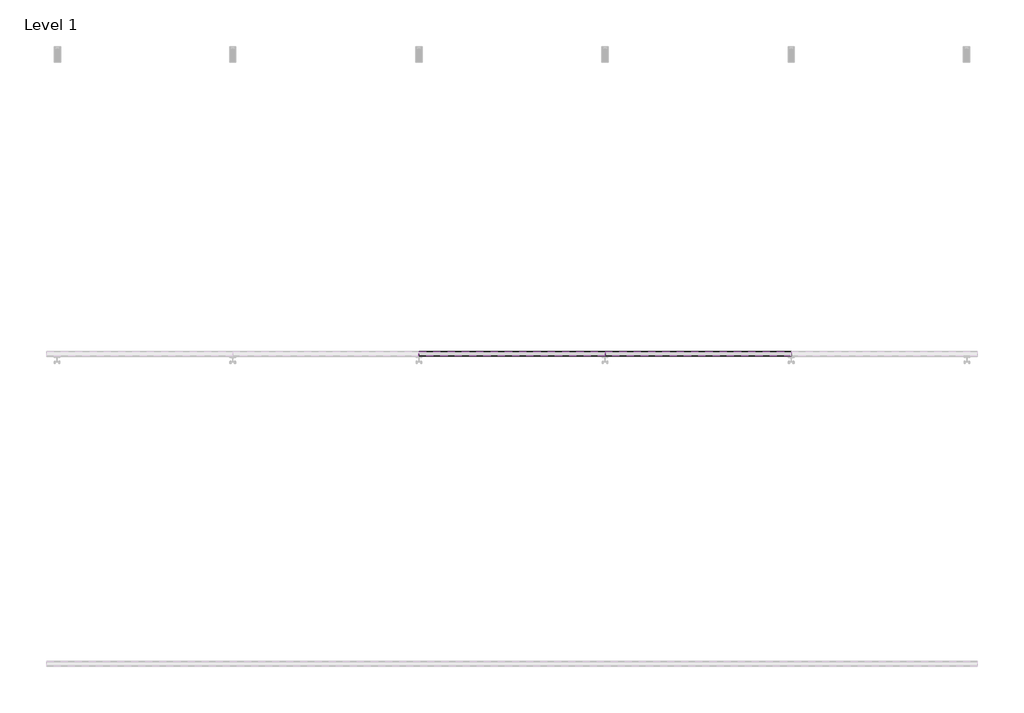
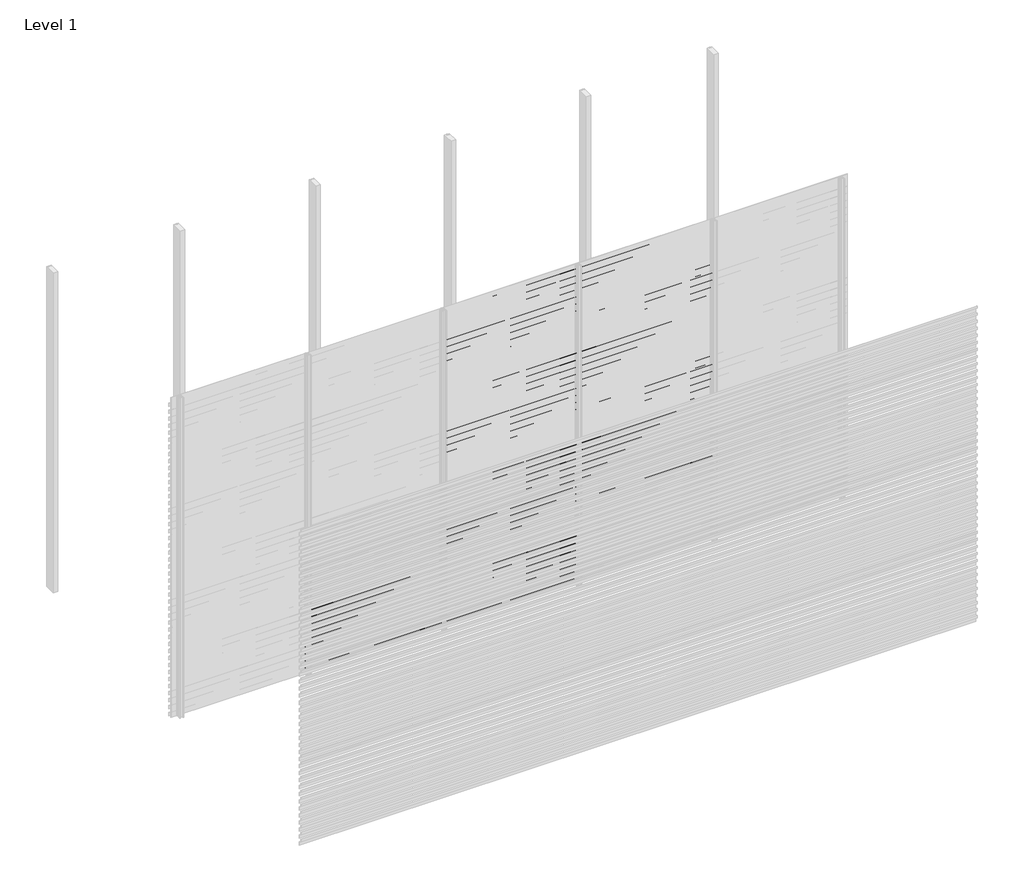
# One storey, part 11 of 33: 88 proxies.
"""IFC4 building model written with IfcOpenShell, lengths in millimetres."""

from ifc_helpers import new_model, si_unit, frame, origin, place, context, project, spatial, polyline, outline, extrude, element, save

model = new_model("IFC4")

# Units and contexts
model_context = context("Model", 3, world=origin())
ifc_project = project(units=[si_unit("LENGTHUNIT", "METRE", prefix="MILLI")], contexts=[model_context])

# Site, building, storey
site = spatial("IfcSite", under=ifc_project)
building = spatial("IfcBuilding", under=site)
storey = spatial("IfcBuildingStorey", under=building, Name="Level 1", Elevation=0.0)

# Proxies
placement = place(None, origin())
element("IfcBuildingElementProxy", 1, Name="Wall Sweeps", at=placement, inside=storey, context=model_context, shape_type="SweptSolid", body=[
    extrude(outline(polyline([(-41967.0, 554.0), (-41967.0, 521.0), (-41968.25, 521.7216933), (-41968.25, 553.2872415), (-41998.0, 574.0588647), (-41998.0, 594.0), (-41996.75, 594.0), (-41996.75, 574.7716232), (-41967.0, 554.0)])), frame((1200.0, 0.0, 0.0), z_axis=(1.0, 0.0, 0.0), x_axis=(0.0, 1.0, 0.0)), (0.0, 0.0, 1.0), 1200.0),
])
element("IfcBuildingElementProxy", 2, Name="Wall Sweeps", at=placement, inside=storey, context=model_context, shape_type="SweptSolid", body=[
    extrude(outline(polyline([(-41967.0, 488.0), (-41967.0, 455.0), (-41968.25, 455.7216933), (-41968.25, 487.2872415), (-41998.0, 508.0588647), (-41998.0, 528.0), (-41996.75, 528.0), (-41996.75, 508.7716232), (-41967.0, 488.0)])), frame((1200.0, 0.0, 0.0), z_axis=(1.0, 0.0, 0.0), x_axis=(0.0, 1.0, 0.0)), (0.0, 0.0, 1.0), 1200.0),
])
element("IfcBuildingElementProxy", 3, Name="Wall Sweeps", at=placement, inside=storey, context=model_context, shape_type="SweptSolid", body=[
    extrude(outline(polyline([(-41967.0, 422.0), (-41967.0, 389.0), (-41968.25, 389.7216933), (-41968.25, 421.2872415), (-41998.0, 442.0588647), (-41998.0, 462.0), (-41996.75, 462.0), (-41996.75, 442.7716232), (-41967.0, 422.0)])), frame((1200.0, 0.0, 0.0), z_axis=(1.0, 0.0, 0.0), x_axis=(0.0, 1.0, 0.0)), (0.0, 0.0, 1.0), 1200.0),
])
element("IfcBuildingElementProxy", 4, Name="Wall Sweeps", at=placement, inside=storey, context=model_context, shape_type="SweptSolid", body=[
    extrude(outline(polyline([(-41967.0, 356.0), (-41967.0, 323.0), (-41968.25, 323.7216933), (-41968.25, 355.2872415), (-41998.0, 376.0588647), (-41998.0, 396.0), (-41996.75, 396.0), (-41996.75, 376.7716232), (-41967.0, 356.0)])), frame((1200.0, 0.0, 0.0), z_axis=(1.0, 0.0, 0.0), x_axis=(0.0, 1.0, 0.0)), (0.0, 0.0, 1.0), 1200.0),
])
element("IfcBuildingElementProxy", 5, Name="Wall Sweeps", at=placement, inside=storey, context=model_context, shape_type="SweptSolid", body=[
    extrude(outline(polyline([(-41967.0, 290.0), (-41967.0, 257.0), (-41968.25, 257.7216933), (-41968.25, 289.2872415), (-41998.0, 310.0588647), (-41998.0, 330.0), (-41996.75, 330.0), (-41996.75, 310.7716232), (-41967.0, 290.0)])), frame((1200.0, 0.0, 0.0), z_axis=(1.0, 0.0, 0.0), x_axis=(0.0, 1.0, 0.0)), (0.0, 0.0, 1.0), 1200.0),
])
element("IfcBuildingElementProxy", 6, Name="Wall Sweeps", at=placement, inside=storey, context=model_context, shape_type="SweptSolid", body=[
    extrude(outline(polyline([(-41967.0, 224.0), (-41967.0, 191.0), (-41968.25, 191.7216933), (-41968.25, 223.2872415), (-41998.0, 244.0588647), (-41998.0, 264.0), (-41996.75, 264.0), (-41996.75, 244.7716232), (-41967.0, 224.0)])), frame((1200.0, 0.0, 0.0), z_axis=(1.0, 0.0, 0.0), x_axis=(0.0, 1.0, 0.0)), (0.0, 0.0, 1.0), 1200.0),
])
element("IfcBuildingElementProxy", 7, Name="Wall Sweeps", at=placement, inside=storey, context=model_context, shape_type="SweptSolid", body=[
    extrude(outline(polyline([(-41967.0, 158.0), (-41967.0, 125.0), (-41968.25, 125.7216933), (-41968.25, 157.2872415), (-41998.0, 178.0588647), (-41998.0, 198.0), (-41996.75, 198.0), (-41996.75, 178.7716232), (-41967.0, 158.0)])), frame((1200.0, 0.0, 0.0), z_axis=(1.0, 0.0, 0.0), x_axis=(0.0, 1.0, 0.0)), (0.0, 0.0, 1.0), 1200.0),
])
element("IfcBuildingElementProxy", 8, Name="Wall Sweeps", at=placement, inside=storey, context=model_context, shape_type="SweptSolid", body=[
    extrude(outline(polyline([(-41967.0, 92.0), (-41967.0, 59.0), (-41968.25, 59.7216933), (-41968.25, 91.2872415), (-41998.0, 112.0588647), (-41998.0, 132.0), (-41996.75, 132.0), (-41996.75, 112.7716232), (-41967.0, 92.0)])), frame((1200.0, 0.0, 0.0), z_axis=(1.0, 0.0, 0.0), x_axis=(0.0, 1.0, 0.0)), (0.0, 0.0, 1.0), 1200.0),
])
element("IfcBuildingElementProxy", 9, Name="Wall Sweeps", at=placement, inside=storey, context=model_context, shape_type="SweptSolid", body=[
    extrude(outline(polyline([(-41967.0, 26.0), (-41967.0, -7.0), (-41968.25, -6.2783067), (-41968.25, 25.2872415), (-41998.0, 46.0588647), (-41998.0, 66.0), (-41996.75, 66.0), (-41996.75, 46.7716232), (-41967.0, 26.0)])), frame((1200.0, 0.0, 0.0), z_axis=(1.0, 0.0, 0.0), x_axis=(0.0, 1.0, 0.0)), (0.0, 0.0, 1.0), 1200.0),
])
element("IfcBuildingElementProxy", 10, Name="Wall Sweeps", at=placement, inside=storey, context=model_context, shape_type="SweptSolid", body=[
    extrude(outline(polyline([(-41967.0, 2930.0), (-41967.0, 2897.0), (-41968.25, 2897.7216933), (-41968.25, 2929.2872415), (-41998.0, 2950.0588647), (-41998.0, 2970.0), (-41996.75, 2970.0), (-41996.75, 2950.7716232), (-41967.0, 2930.0)])), frame((2400.0, 0.0, 0.0), z_axis=(1.0, 0.0, 0.0), x_axis=(0.0, 1.0, 0.0)), (0.0, 0.0, 1.0), 1200.0),
])
element("IfcBuildingElementProxy", 11, Name="Wall Sweeps", at=placement, inside=storey, context=model_context, shape_type="SweptSolid", body=[
    extrude(outline(polyline([(-41967.0, 2864.0), (-41967.0, 2831.0), (-41968.25, 2831.7216933), (-41968.25, 2863.2872415), (-41998.0, 2884.0588647), (-41998.0, 2904.0), (-41996.75, 2904.0), (-41996.75, 2884.7716232), (-41967.0, 2864.0)])), frame((2400.0, 0.0, 0.0), z_axis=(1.0, 0.0, 0.0), x_axis=(0.0, 1.0, 0.0)), (0.0, 0.0, 1.0), 1200.0),
])
element("IfcBuildingElementProxy", 12, Name="Wall Sweeps", at=placement, inside=storey, context=model_context, shape_type="SweptSolid", body=[
    extrude(outline(polyline([(-41967.0, 2798.0), (-41967.0, 2765.0), (-41968.25, 2765.7216933), (-41968.25, 2797.2872415), (-41998.0, 2818.0588647), (-41998.0, 2838.0), (-41996.75, 2838.0), (-41996.75, 2818.7716232), (-41967.0, 2798.0)])), frame((2400.0, 0.0, 0.0), z_axis=(1.0, 0.0, 0.0), x_axis=(0.0, 1.0, 0.0)), (0.0, 0.0, 1.0), 1200.0),
])
element("IfcBuildingElementProxy", 13, Name="Wall Sweeps", at=placement, inside=storey, context=model_context, shape_type="SweptSolid", body=[
    extrude(outline(polyline([(-41967.0, 2732.0), (-41967.0, 2699.0), (-41968.25, 2699.7216933), (-41968.25, 2731.2872415), (-41998.0, 2752.0588647), (-41998.0, 2772.0), (-41996.75, 2772.0), (-41996.75, 2752.7716232), (-41967.0, 2732.0)])), frame((2400.0, 0.0, 0.0), z_axis=(1.0, 0.0, 0.0), x_axis=(0.0, 1.0, 0.0)), (0.0, 0.0, 1.0), 1200.0),
])
element("IfcBuildingElementProxy", 14, Name="Wall Sweeps", at=placement, inside=storey, context=model_context, shape_type="SweptSolid", body=[
    extrude(outline(polyline([(-41967.0, 2666.0), (-41967.0, 2633.0), (-41968.25, 2633.7216933), (-41968.25, 2665.2872415), (-41998.0, 2686.0588647), (-41998.0, 2706.0), (-41996.75, 2706.0), (-41996.75, 2686.7716232), (-41967.0, 2666.0)])), frame((2400.0, 0.0, 0.0), z_axis=(1.0, 0.0, 0.0), x_axis=(0.0, 1.0, 0.0)), (0.0, 0.0, 1.0), 1200.0),
])
element("IfcBuildingElementProxy", 15, Name="Wall Sweeps", at=placement, inside=storey, context=model_context, shape_type="SweptSolid", body=[
    extrude(outline(polyline([(-41967.0, 2600.0), (-41967.0, 2567.0), (-41968.25, 2567.7216933), (-41968.25, 2599.2872415), (-41998.0, 2620.0588647), (-41998.0, 2640.0), (-41996.75, 2640.0), (-41996.75, 2620.7716232), (-41967.0, 2600.0)])), frame((2400.0, 0.0, 0.0), z_axis=(1.0, 0.0, 0.0), x_axis=(0.0, 1.0, 0.0)), (0.0, 0.0, 1.0), 1200.0),
])
element("IfcBuildingElementProxy", 16, Name="Wall Sweeps", at=placement, inside=storey, context=model_context, shape_type="SweptSolid", body=[
    extrude(outline(polyline([(-41967.0, 2534.0), (-41967.0, 2501.0), (-41968.25, 2501.7216933), (-41968.25, 2533.2872415), (-41998.0, 2554.0588647), (-41998.0, 2574.0), (-41996.75, 2574.0), (-41996.75, 2554.7716232), (-41967.0, 2534.0)])), frame((2400.0, 0.0, 0.0), z_axis=(1.0, 0.0, 0.0), x_axis=(0.0, 1.0, 0.0)), (0.0, 0.0, 1.0), 1200.0),
])
element("IfcBuildingElementProxy", 17, Name="Wall Sweeps", at=placement, inside=storey, context=model_context, shape_type="SweptSolid", body=[
    extrude(outline(polyline([(-41967.0, 2468.0), (-41967.0, 2435.0), (-41968.25, 2435.7216933), (-41968.25, 2467.2872415), (-41998.0, 2488.0588647), (-41998.0, 2508.0), (-41996.75, 2508.0), (-41996.75, 2488.7716232), (-41967.0, 2468.0)])), frame((2400.0, 0.0, 0.0), z_axis=(1.0, 0.0, 0.0), x_axis=(0.0, 1.0, 0.0)), (0.0, 0.0, 1.0), 1200.0),
])
element("IfcBuildingElementProxy", 18, Name="Wall Sweeps", at=placement, inside=storey, context=model_context, shape_type="SweptSolid", body=[
    extrude(outline(polyline([(-41967.0, 2402.0), (-41967.0, 2369.0), (-41968.25, 2369.7216933), (-41968.25, 2401.2872415), (-41998.0, 2422.0588647), (-41998.0, 2442.0), (-41996.75, 2442.0), (-41996.75, 2422.7716232), (-41967.0, 2402.0)])), frame((2400.0, 0.0, 0.0), z_axis=(1.0, 0.0, 0.0), x_axis=(0.0, 1.0, 0.0)), (0.0, 0.0, 1.0), 1200.0),
])
element("IfcBuildingElementProxy", 19, Name="Wall Sweeps", at=placement, inside=storey, context=model_context, shape_type="SweptSolid", body=[
    extrude(outline(polyline([(-41967.0, 2336.0), (-41967.0, 2303.0), (-41968.25, 2303.7216933), (-41968.25, 2335.2872415), (-41998.0, 2356.0588647), (-41998.0, 2376.0), (-41996.75, 2376.0), (-41996.75, 2356.7716232), (-41967.0, 2336.0)])), frame((2400.0, 0.0, 0.0), z_axis=(1.0, 0.0, 0.0), x_axis=(0.0, 1.0, 0.0)), (0.0, 0.0, 1.0), 1200.0),
])
element("IfcBuildingElementProxy", 20, Name="Wall Sweeps", at=placement, inside=storey, context=model_context, shape_type="SweptSolid", body=[
    extrude(outline(polyline([(-41967.0, 2270.0), (-41967.0, 2237.0), (-41968.25, 2237.7216933), (-41968.25, 2269.2872415), (-41998.0, 2290.0588647), (-41998.0, 2310.0), (-41996.75, 2310.0), (-41996.75, 2290.7716232), (-41967.0, 2270.0)])), frame((2400.0, 0.0, 0.0), z_axis=(1.0, 0.0, 0.0), x_axis=(0.0, 1.0, 0.0)), (0.0, 0.0, 1.0), 1200.0),
])
element("IfcBuildingElementProxy", 21, Name="Wall Sweeps", at=placement, inside=storey, context=model_context, shape_type="SweptSolid", body=[
    extrude(outline(polyline([(-41967.0, 2204.0), (-41967.0, 2171.0), (-41968.25, 2171.7216933), (-41968.25, 2203.2872415), (-41998.0, 2224.0588647), (-41998.0, 2244.0), (-41996.75, 2244.0), (-41996.75, 2224.7716232), (-41967.0, 2204.0)])), frame((2400.0, 0.0, 0.0), z_axis=(1.0, 0.0, 0.0), x_axis=(0.0, 1.0, 0.0)), (0.0, 0.0, 1.0), 1200.0),
])
element("IfcBuildingElementProxy", 22, Name="Wall Sweeps", at=placement, inside=storey, context=model_context, shape_type="SweptSolid", body=[
    extrude(outline(polyline([(-41967.0, 2138.0), (-41967.0, 2105.0), (-41968.25, 2105.7216933), (-41968.25, 2137.2872415), (-41998.0, 2158.0588647), (-41998.0, 2178.0), (-41996.75, 2178.0), (-41996.75, 2158.7716232), (-41967.0, 2138.0)])), frame((2400.0, 0.0, 0.0), z_axis=(1.0, 0.0, 0.0), x_axis=(0.0, 1.0, 0.0)), (0.0, 0.0, 1.0), 1200.0),
])
element("IfcBuildingElementProxy", 23, Name="Wall Sweeps", at=placement, inside=storey, context=model_context, shape_type="SweptSolid", body=[
    extrude(outline(polyline([(-41967.0, 2072.0), (-41967.0, 2039.0), (-41968.25, 2039.7216933), (-41968.25, 2071.2872415), (-41998.0, 2092.0588647), (-41998.0, 2112.0), (-41996.75, 2112.0), (-41996.75, 2092.7716232), (-41967.0, 2072.0)])), frame((2400.0, 0.0, 0.0), z_axis=(1.0, 0.0, 0.0), x_axis=(0.0, 1.0, 0.0)), (0.0, 0.0, 1.0), 1200.0),
])
element("IfcBuildingElementProxy", 24, Name="Wall Sweeps", at=placement, inside=storey, context=model_context, shape_type="SweptSolid", body=[
    extrude(outline(polyline([(-41967.0, 2006.0), (-41967.0, 1973.0), (-41968.25, 1973.7216933), (-41968.25, 2005.2872415), (-41998.0, 2026.0588647), (-41998.0, 2046.0), (-41996.75, 2046.0), (-41996.75, 2026.7716232), (-41967.0, 2006.0)])), frame((2400.0, 0.0, 0.0), z_axis=(1.0, 0.0, 0.0), x_axis=(0.0, 1.0, 0.0)), (0.0, 0.0, 1.0), 1200.0),
])
element("IfcBuildingElementProxy", 25, Name="Wall Sweeps", at=placement, inside=storey, context=model_context, shape_type="SweptSolid", body=[
    extrude(outline(polyline([(-41967.0, 1940.0), (-41967.0, 1907.0), (-41968.25, 1907.7216933), (-41968.25, 1939.2872415), (-41998.0, 1960.0588647), (-41998.0, 1980.0), (-41996.75, 1980.0), (-41996.75, 1960.7716232), (-41967.0, 1940.0)])), frame((2400.0, 0.0, 0.0), z_axis=(1.0, 0.0, 0.0), x_axis=(0.0, 1.0, 0.0)), (0.0, 0.0, 1.0), 1200.0),
])
element("IfcBuildingElementProxy", 26, Name="Wall Sweeps", at=placement, inside=storey, context=model_context, shape_type="SweptSolid", body=[
    extrude(outline(polyline([(-41967.0, 1874.0), (-41967.0, 1841.0), (-41968.25, 1841.7216933), (-41968.25, 1873.2872415), (-41998.0, 1894.0588647), (-41998.0, 1914.0), (-41996.75, 1914.0), (-41996.75, 1894.7716232), (-41967.0, 1874.0)])), frame((2400.0, 0.0, 0.0), z_axis=(1.0, 0.0, 0.0), x_axis=(0.0, 1.0, 0.0)), (0.0, 0.0, 1.0), 1200.0),
])
element("IfcBuildingElementProxy", 27, Name="Wall Sweeps", at=placement, inside=storey, context=model_context, shape_type="SweptSolid", body=[
    extrude(outline(polyline([(-41967.0, 1808.0), (-41967.0, 1775.0), (-41968.25, 1775.7216933), (-41968.25, 1807.2872415), (-41998.0, 1828.0588647), (-41998.0, 1848.0), (-41996.75, 1848.0), (-41996.75, 1828.7716232), (-41967.0, 1808.0)])), frame((2400.0, 0.0, 0.0), z_axis=(1.0, 0.0, 0.0), x_axis=(0.0, 1.0, 0.0)), (0.0, 0.0, 1.0), 1200.0),
])
element("IfcBuildingElementProxy", 28, Name="Wall Sweeps", at=placement, inside=storey, context=model_context, shape_type="SweptSolid", body=[
    extrude(outline(polyline([(-41967.0, 1742.0), (-41967.0, 1709.0), (-41968.25, 1709.7216933), (-41968.25, 1741.2872415), (-41998.0, 1762.0588647), (-41998.0, 1782.0), (-41996.75, 1782.0), (-41996.75, 1762.7716232), (-41967.0, 1742.0)])), frame((2400.0, 0.0, 0.0), z_axis=(1.0, 0.0, 0.0), x_axis=(0.0, 1.0, 0.0)), (0.0, 0.0, 1.0), 1200.0),
])
element("IfcBuildingElementProxy", 29, Name="Wall Sweeps", at=placement, inside=storey, context=model_context, shape_type="SweptSolid", body=[
    extrude(outline(polyline([(-41967.0, 1676.0), (-41967.0, 1643.0), (-41968.25, 1643.7216933), (-41968.25, 1675.2872415), (-41998.0, 1696.0588647), (-41998.0, 1716.0), (-41996.75, 1716.0), (-41996.75, 1696.7716232), (-41967.0, 1676.0)])), frame((2400.0, 0.0, 0.0), z_axis=(1.0, 0.0, 0.0), x_axis=(0.0, 1.0, 0.0)), (0.0, 0.0, 1.0), 1200.0),
])
element("IfcBuildingElementProxy", 30, Name="Wall Sweeps", at=placement, inside=storey, context=model_context, shape_type="SweptSolid", body=[
    extrude(outline(polyline([(-41967.0, 1610.0), (-41967.0, 1577.0), (-41968.25, 1577.7216933), (-41968.25, 1609.2872415), (-41998.0, 1630.0588647), (-41998.0, 1650.0), (-41996.75, 1650.0), (-41996.75, 1630.7716232), (-41967.0, 1610.0)])), frame((2400.0, 0.0, 0.0), z_axis=(1.0, 0.0, 0.0), x_axis=(0.0, 1.0, 0.0)), (0.0, 0.0, 1.0), 1200.0),
])
element("IfcBuildingElementProxy", 31, Name="Wall Sweeps", at=placement, inside=storey, context=model_context, shape_type="SweptSolid", body=[
    extrude(outline(polyline([(-41967.0, 1544.0), (-41967.0, 1511.0), (-41968.25, 1511.7216933), (-41968.25, 1543.2872415), (-41998.0, 1564.0588647), (-41998.0, 1584.0), (-41996.75, 1584.0), (-41996.75, 1564.7716232), (-41967.0, 1544.0)])), frame((2400.0, 0.0, 0.0), z_axis=(1.0, 0.0, 0.0), x_axis=(0.0, 1.0, 0.0)), (0.0, 0.0, 1.0), 1200.0),
])
element("IfcBuildingElementProxy", 32, Name="Wall Sweeps", at=placement, inside=storey, context=model_context, shape_type="SweptSolid", body=[
    extrude(outline(polyline([(-41967.0, 1478.0), (-41967.0, 1445.0), (-41968.25, 1445.7216933), (-41968.25, 1477.2872415), (-41998.0, 1498.0588647), (-41998.0, 1518.0), (-41996.75, 1518.0), (-41996.75, 1498.7716232), (-41967.0, 1478.0)])), frame((2400.0, 0.0, 0.0), z_axis=(1.0, 0.0, 0.0), x_axis=(0.0, 1.0, 0.0)), (0.0, 0.0, 1.0), 1200.0),
])
element("IfcBuildingElementProxy", 33, Name="Wall Sweeps", at=placement, inside=storey, context=model_context, shape_type="SweptSolid", body=[
    extrude(outline(polyline([(-41967.0, 1412.0), (-41967.0, 1379.0), (-41968.25, 1379.7216933), (-41968.25, 1411.2872415), (-41998.0, 1432.0588647), (-41998.0, 1452.0), (-41996.75, 1452.0), (-41996.75, 1432.7716232), (-41967.0, 1412.0)])), frame((2400.0, 0.0, 0.0), z_axis=(1.0, 0.0, 0.0), x_axis=(0.0, 1.0, 0.0)), (0.0, 0.0, 1.0), 1200.0),
])
element("IfcBuildingElementProxy", 34, Name="Wall Sweeps", at=placement, inside=storey, context=model_context, shape_type="SweptSolid", body=[
    extrude(outline(polyline([(-41967.0, 1346.0), (-41967.0, 1313.0), (-41968.25, 1313.7216933), (-41968.25, 1345.2872415), (-41998.0, 1366.0588647), (-41998.0, 1386.0), (-41996.75, 1386.0), (-41996.75, 1366.7716232), (-41967.0, 1346.0)])), frame((2400.0, 0.0, 0.0), z_axis=(1.0, 0.0, 0.0), x_axis=(0.0, 1.0, 0.0)), (0.0, 0.0, 1.0), 1200.0),
])
element("IfcBuildingElementProxy", 35, Name="Wall Sweeps", at=placement, inside=storey, context=model_context, shape_type="SweptSolid", body=[
    extrude(outline(polyline([(-41967.0, 1280.0), (-41967.0, 1247.0), (-41968.25, 1247.7216933), (-41968.25, 1279.2872415), (-41998.0, 1300.0588647), (-41998.0, 1320.0), (-41996.75, 1320.0), (-41996.75, 1300.7716232), (-41967.0, 1280.0)])), frame((2400.0, 0.0, 0.0), z_axis=(1.0, 0.0, 0.0), x_axis=(0.0, 1.0, 0.0)), (0.0, 0.0, 1.0), 1200.0),
])
element("IfcBuildingElementProxy", 36, Name="Wall Sweeps", at=placement, inside=storey, context=model_context, shape_type="SweptSolid", body=[
    extrude(outline(polyline([(-41967.0, 1214.0), (-41967.0, 1181.0), (-41968.25, 1181.7216933), (-41968.25, 1213.2872415), (-41998.0, 1234.0588647), (-41998.0, 1254.0), (-41996.75, 1254.0), (-41996.75, 1234.7716232), (-41967.0, 1214.0)])), frame((2400.0, 0.0, 0.0), z_axis=(1.0, 0.0, 0.0), x_axis=(0.0, 1.0, 0.0)), (0.0, 0.0, 1.0), 1200.0),
])
element("IfcBuildingElementProxy", 37, Name="Wall Sweeps", at=placement, inside=storey, context=model_context, shape_type="SweptSolid", body=[
    extrude(outline(polyline([(-41967.0, 1148.0), (-41967.0, 1115.0), (-41968.25, 1115.7216933), (-41968.25, 1147.2872415), (-41998.0, 1168.0588647), (-41998.0, 1188.0), (-41996.75, 1188.0), (-41996.75, 1168.7716232), (-41967.0, 1148.0)])), frame((2400.0, 0.0, 0.0), z_axis=(1.0, 0.0, 0.0), x_axis=(0.0, 1.0, 0.0)), (0.0, 0.0, 1.0), 1200.0),
])
element("IfcBuildingElementProxy", 38, Name="Wall Sweeps", at=placement, inside=storey, context=model_context, shape_type="SweptSolid", body=[
    extrude(outline(polyline([(-41967.0, 1082.0), (-41967.0, 1049.0), (-41968.25, 1049.7216933), (-41968.25, 1081.2872415), (-41998.0, 1102.0588647), (-41998.0, 1122.0), (-41996.75, 1122.0), (-41996.75, 1102.7716232), (-41967.0, 1082.0)])), frame((2400.0, 0.0, 0.0), z_axis=(1.0, 0.0, 0.0), x_axis=(0.0, 1.0, 0.0)), (0.0, 0.0, 1.0), 1200.0),
])
element("IfcBuildingElementProxy", 39, Name="Wall Sweeps", at=placement, inside=storey, context=model_context, shape_type="SweptSolid", body=[
    extrude(outline(polyline([(-41967.0, 1016.0), (-41967.0, 983.0), (-41968.25, 983.7216933), (-41968.25, 1015.2872415), (-41998.0, 1036.0588647), (-41998.0, 1056.0), (-41996.75, 1056.0), (-41996.75, 1036.7716232), (-41967.0, 1016.0)])), frame((2400.0, 0.0, 0.0), z_axis=(1.0, 0.0, 0.0), x_axis=(0.0, 1.0, 0.0)), (0.0, 0.0, 1.0), 1200.0),
])
element("IfcBuildingElementProxy", 40, Name="Wall Sweeps", at=placement, inside=storey, context=model_context, shape_type="SweptSolid", body=[
    extrude(outline(polyline([(-41967.0, 950.0), (-41967.0, 917.0), (-41968.25, 917.7216933), (-41968.25, 949.2872415), (-41998.0, 970.0588647), (-41998.0, 990.0), (-41996.75, 990.0), (-41996.75, 970.7716232), (-41967.0, 950.0)])), frame((2400.0, 0.0, 0.0), z_axis=(1.0, 0.0, 0.0), x_axis=(0.0, 1.0, 0.0)), (0.0, 0.0, 1.0), 1200.0),
])
element("IfcBuildingElementProxy", 41, Name="Wall Sweeps", at=placement, inside=storey, context=model_context, shape_type="SweptSolid", body=[
    extrude(outline(polyline([(-41967.0, 884.0), (-41967.0, 851.0), (-41968.25, 851.7216933), (-41968.25, 883.2872415), (-41998.0, 904.0588647), (-41998.0, 924.0), (-41996.75, 924.0), (-41996.75, 904.7716232), (-41967.0, 884.0)])), frame((2400.0, 0.0, 0.0), z_axis=(1.0, 0.0, 0.0), x_axis=(0.0, 1.0, 0.0)), (0.0, 0.0, 1.0), 1200.0),
])
element("IfcBuildingElementProxy", 42, Name="Wall Sweeps", at=placement, inside=storey, context=model_context, shape_type="SweptSolid", body=[
    extrude(outline(polyline([(-41967.0, 818.0), (-41967.0, 785.0), (-41968.25, 785.7216933), (-41968.25, 817.2872415), (-41998.0, 838.0588647), (-41998.0, 858.0), (-41996.75, 858.0), (-41996.75, 838.7716232), (-41967.0, 818.0)])), frame((2400.0, 0.0, 0.0), z_axis=(1.0, 0.0, 0.0), x_axis=(0.0, 1.0, 0.0)), (0.0, 0.0, 1.0), 1200.0),
])
element("IfcBuildingElementProxy", 43, Name="Wall Sweeps", at=placement, inside=storey, context=model_context, shape_type="SweptSolid", body=[
    extrude(outline(polyline([(-41967.0, 752.0), (-41967.0, 719.0), (-41968.25, 719.7216933), (-41968.25, 751.2872415), (-41998.0, 772.0588647), (-41998.0, 792.0), (-41996.75, 792.0), (-41996.75, 772.7716232), (-41967.0, 752.0)])), frame((2400.0, 0.0, 0.0), z_axis=(1.0, 0.0, 0.0), x_axis=(0.0, 1.0, 0.0)), (0.0, 0.0, 1.0), 1200.0),
])
element("IfcBuildingElementProxy", 44, Name="Wall Sweeps", at=placement, inside=storey, context=model_context, shape_type="SweptSolid", body=[
    extrude(outline(polyline([(-41967.0, 686.0), (-41967.0, 653.0), (-41968.25, 653.7216933), (-41968.25, 685.2872415), (-41998.0, 706.0588647), (-41998.0, 726.0), (-41996.75, 726.0), (-41996.75, 706.7716232), (-41967.0, 686.0)])), frame((2400.0, 0.0, 0.0), z_axis=(1.0, 0.0, 0.0), x_axis=(0.0, 1.0, 0.0)), (0.0, 0.0, 1.0), 1200.0),
])
element("IfcBuildingElementProxy", 45, Name="Wall Sweeps", at=placement, inside=storey, context=model_context, shape_type="SweptSolid", body=[
    extrude(outline(polyline([(-41967.0, 620.0), (-41967.0, 587.0), (-41968.25, 587.7216933), (-41968.25, 619.2872415), (-41998.0, 640.0588647), (-41998.0, 660.0), (-41996.75, 660.0), (-41996.75, 640.7716232), (-41967.0, 620.0)])), frame((2400.0, 0.0, 0.0), z_axis=(1.0, 0.0, 0.0), x_axis=(0.0, 1.0, 0.0)), (0.0, 0.0, 1.0), 1200.0),
])
element("IfcBuildingElementProxy", 46, Name="Wall Sweeps", at=placement, inside=storey, context=model_context, shape_type="SweptSolid", body=[
    extrude(outline(polyline([(-41967.0, 554.0), (-41967.0, 521.0), (-41968.25, 521.7216933), (-41968.25, 553.2872415), (-41998.0, 574.0588647), (-41998.0, 594.0), (-41996.75, 594.0), (-41996.75, 574.7716232), (-41967.0, 554.0)])), frame((2400.0, 0.0, 0.0), z_axis=(1.0, 0.0, 0.0), x_axis=(0.0, 1.0, 0.0)), (0.0, 0.0, 1.0), 1200.0),
])
element("IfcBuildingElementProxy", 47, Name="Wall Sweeps", at=placement, inside=storey, context=model_context, shape_type="SweptSolid", body=[
    extrude(outline(polyline([(-41967.0, 488.0), (-41967.0, 455.0), (-41968.25, 455.7216933), (-41968.25, 487.2872415), (-41998.0, 508.0588647), (-41998.0, 528.0), (-41996.75, 528.0), (-41996.75, 508.7716232), (-41967.0, 488.0)])), frame((2400.0, 0.0, 0.0), z_axis=(1.0, 0.0, 0.0), x_axis=(0.0, 1.0, 0.0)), (0.0, 0.0, 1.0), 1200.0),
])
element("IfcBuildingElementProxy", 48, Name="Wall Sweeps", at=placement, inside=storey, context=model_context, shape_type="SweptSolid", body=[
    extrude(outline(polyline([(-41967.0, 422.0), (-41967.0, 389.0), (-41968.25, 389.7216933), (-41968.25, 421.2872415), (-41998.0, 442.0588647), (-41998.0, 462.0), (-41996.75, 462.0), (-41996.75, 442.7716232), (-41967.0, 422.0)])), frame((2400.0, 0.0, 0.0), z_axis=(1.0, 0.0, 0.0), x_axis=(0.0, 1.0, 0.0)), (0.0, 0.0, 1.0), 1200.0),
])
element("IfcBuildingElementProxy", 49, Name="Wall Sweeps", at=placement, inside=storey, context=model_context, shape_type="SweptSolid", body=[
    extrude(outline(polyline([(-41967.0, 356.0), (-41967.0, 323.0), (-41968.25, 323.7216933), (-41968.25, 355.2872415), (-41998.0, 376.0588647), (-41998.0, 396.0), (-41996.75, 396.0), (-41996.75, 376.7716232), (-41967.0, 356.0)])), frame((2400.0, 0.0, 0.0), z_axis=(1.0, 0.0, 0.0), x_axis=(0.0, 1.0, 0.0)), (0.0, 0.0, 1.0), 1200.0),
])
element("IfcBuildingElementProxy", 50, Name="Wall Sweeps", at=placement, inside=storey, context=model_context, shape_type="SweptSolid", body=[
    extrude(outline(polyline([(-41967.0, 290.0), (-41967.0, 257.0), (-41968.25, 257.7216933), (-41968.25, 289.2872415), (-41998.0, 310.0588647), (-41998.0, 330.0), (-41996.75, 330.0), (-41996.75, 310.7716232), (-41967.0, 290.0)])), frame((2400.0, 0.0, 0.0), z_axis=(1.0, 0.0, 0.0), x_axis=(0.0, 1.0, 0.0)), (0.0, 0.0, 1.0), 1200.0),
])
element("IfcBuildingElementProxy", 51, Name="Wall Sweeps", at=placement, inside=storey, context=model_context, shape_type="SweptSolid", body=[
    extrude(outline(polyline([(-41967.0, 224.0), (-41967.0, 191.0), (-41968.25, 191.7216933), (-41968.25, 223.2872415), (-41998.0, 244.0588647), (-41998.0, 264.0), (-41996.75, 264.0), (-41996.75, 244.7716232), (-41967.0, 224.0)])), frame((2400.0, 0.0, 0.0), z_axis=(1.0, 0.0, 0.0), x_axis=(0.0, 1.0, 0.0)), (0.0, 0.0, 1.0), 1200.0),
])
element("IfcBuildingElementProxy", 52, Name="Wall Sweeps", at=placement, inside=storey, context=model_context, shape_type="SweptSolid", body=[
    extrude(outline(polyline([(-41967.0, 158.0), (-41967.0, 125.0), (-41968.25, 125.7216933), (-41968.25, 157.2872415), (-41998.0, 178.0588647), (-41998.0, 198.0), (-41996.75, 198.0), (-41996.75, 178.7716232), (-41967.0, 158.0)])), frame((2400.0, 0.0, 0.0), z_axis=(1.0, 0.0, 0.0), x_axis=(0.0, 1.0, 0.0)), (0.0, 0.0, 1.0), 1200.0),
])
element("IfcBuildingElementProxy", 53, Name="Wall Sweeps", at=placement, inside=storey, context=model_context, shape_type="SweptSolid", body=[
    extrude(outline(polyline([(-41967.0, 92.0), (-41967.0, 59.0), (-41968.25, 59.7216933), (-41968.25, 91.2872415), (-41998.0, 112.0588647), (-41998.0, 132.0), (-41996.75, 132.0), (-41996.75, 112.7716232), (-41967.0, 92.0)])), frame((2400.0, 0.0, 0.0), z_axis=(1.0, 0.0, 0.0), x_axis=(0.0, 1.0, 0.0)), (0.0, 0.0, 1.0), 1200.0),
])
element("IfcBuildingElementProxy", 54, Name="Wall Sweeps", at=placement, inside=storey, context=model_context, shape_type="SweptSolid", body=[
    extrude(outline(polyline([(-41967.0, 26.0), (-41967.0, -7.0), (-41968.25, -6.2783067), (-41968.25, 25.2872415), (-41998.0, 46.0588647), (-41998.0, 66.0), (-41996.75, 66.0), (-41996.75, 46.7716232), (-41967.0, 26.0)])), frame((2400.0, 0.0, 0.0), z_axis=(1.0, 0.0, 0.0), x_axis=(0.0, 1.0, 0.0)), (0.0, 0.0, 1.0), 1200.0),
])
element("IfcBuildingElementProxy", 55, Name="Wall Sweeps", at=placement, inside=storey, context=model_context, shape_type="SweptSolid", body=[
    extrude(outline(polyline([(-41967.0, 2930.0), (-41967.0, 2897.0), (-41968.25, 2897.7216933), (-41968.25, 2929.2872415), (-41998.0, 2950.0588647), (-41998.0, 2970.0), (-41996.75, 2970.0), (-41996.75, 2950.7716232), (-41967.0, 2930.0)])), frame((3600.0, 0.0, 0.0), z_axis=(1.0, 0.0, 0.0), x_axis=(0.0, 1.0, 0.0)), (0.0, 0.0, 1.0), 1200.0),
])
element("IfcBuildingElementProxy", 56, Name="Wall Sweeps", at=placement, inside=storey, context=model_context, shape_type="SweptSolid", body=[
    extrude(outline(polyline([(-41967.0, 2864.0), (-41967.0, 2831.0), (-41968.25, 2831.7216933), (-41968.25, 2863.2872415), (-41998.0, 2884.0588647), (-41998.0, 2904.0), (-41996.75, 2904.0), (-41996.75, 2884.7716232), (-41967.0, 2864.0)])), frame((3600.0, 0.0, 0.0), z_axis=(1.0, 0.0, 0.0), x_axis=(0.0, 1.0, 0.0)), (0.0, 0.0, 1.0), 1200.0),
])
element("IfcBuildingElementProxy", 57, Name="Wall Sweeps", at=placement, inside=storey, context=model_context, shape_type="SweptSolid", body=[
    extrude(outline(polyline([(-41967.0, 2798.0), (-41967.0, 2765.0), (-41968.25, 2765.7216933), (-41968.25, 2797.2872415), (-41998.0, 2818.0588647), (-41998.0, 2838.0), (-41996.75, 2838.0), (-41996.75, 2818.7716232), (-41967.0, 2798.0)])), frame((3600.0, 0.0, 0.0), z_axis=(1.0, 0.0, 0.0), x_axis=(0.0, 1.0, 0.0)), (0.0, 0.0, 1.0), 1200.0),
])
element("IfcBuildingElementProxy", 58, Name="Wall Sweeps", at=placement, inside=storey, context=model_context, shape_type="SweptSolid", body=[
    extrude(outline(polyline([(-41967.0, 2732.0), (-41967.0, 2699.0), (-41968.25, 2699.7216933), (-41968.25, 2731.2872415), (-41998.0, 2752.0588647), (-41998.0, 2772.0), (-41996.75, 2772.0), (-41996.75, 2752.7716232), (-41967.0, 2732.0)])), frame((3600.0, 0.0, 0.0), z_axis=(1.0, 0.0, 0.0), x_axis=(0.0, 1.0, 0.0)), (0.0, 0.0, 1.0), 1200.0),
])
element("IfcBuildingElementProxy", 59, Name="Wall Sweeps", at=placement, inside=storey, context=model_context, shape_type="SweptSolid", body=[
    extrude(outline(polyline([(-41967.0, 2666.0), (-41967.0, 2633.0), (-41968.25, 2633.7216933), (-41968.25, 2665.2872415), (-41998.0, 2686.0588647), (-41998.0, 2706.0), (-41996.75, 2706.0), (-41996.75, 2686.7716232), (-41967.0, 2666.0)])), frame((3600.0, 0.0, 0.0), z_axis=(1.0, 0.0, 0.0), x_axis=(0.0, 1.0, 0.0)), (0.0, 0.0, 1.0), 1200.0),
])
element("IfcBuildingElementProxy", 60, Name="Wall Sweeps", at=placement, inside=storey, context=model_context, shape_type="SweptSolid", body=[
    extrude(outline(polyline([(-41967.0, 2600.0), (-41967.0, 2567.0), (-41968.25, 2567.7216933), (-41968.25, 2599.2872415), (-41998.0, 2620.0588647), (-41998.0, 2640.0), (-41996.75, 2640.0), (-41996.75, 2620.7716232), (-41967.0, 2600.0)])), frame((3600.0, 0.0, 0.0), z_axis=(1.0, 0.0, 0.0), x_axis=(0.0, 1.0, 0.0)), (0.0, 0.0, 1.0), 1200.0),
])
element("IfcBuildingElementProxy", 61, Name="Wall Sweeps", at=placement, inside=storey, context=model_context, shape_type="SweptSolid", body=[
    extrude(outline(polyline([(-41967.0, 2534.0), (-41967.0, 2501.0), (-41968.25, 2501.7216933), (-41968.25, 2533.2872415), (-41998.0, 2554.0588647), (-41998.0, 2574.0), (-41996.75, 2574.0), (-41996.75, 2554.7716232), (-41967.0, 2534.0)])), frame((3600.0, 0.0, 0.0), z_axis=(1.0, 0.0, 0.0), x_axis=(0.0, 1.0, 0.0)), (0.0, 0.0, 1.0), 1200.0),
])
element("IfcBuildingElementProxy", 62, Name="Wall Sweeps", at=placement, inside=storey, context=model_context, shape_type="SweptSolid", body=[
    extrude(outline(polyline([(-41967.0, 2468.0), (-41967.0, 2435.0), (-41968.25, 2435.7216933), (-41968.25, 2467.2872415), (-41998.0, 2488.0588647), (-41998.0, 2508.0), (-41996.75, 2508.0), (-41996.75, 2488.7716232), (-41967.0, 2468.0)])), frame((3600.0, 0.0, 0.0), z_axis=(1.0, 0.0, 0.0), x_axis=(0.0, 1.0, 0.0)), (0.0, 0.0, 1.0), 1200.0),
])
element("IfcBuildingElementProxy", 63, Name="Wall Sweeps", at=placement, inside=storey, context=model_context, shape_type="SweptSolid", body=[
    extrude(outline(polyline([(-41967.0, 2402.0), (-41967.0, 2369.0), (-41968.25, 2369.7216933), (-41968.25, 2401.2872415), (-41998.0, 2422.0588647), (-41998.0, 2442.0), (-41996.75, 2442.0), (-41996.75, 2422.7716232), (-41967.0, 2402.0)])), frame((3600.0, 0.0, 0.0), z_axis=(1.0, 0.0, 0.0), x_axis=(0.0, 1.0, 0.0)), (0.0, 0.0, 1.0), 1200.0),
])
element("IfcBuildingElementProxy", 64, Name="Wall Sweeps", at=placement, inside=storey, context=model_context, shape_type="SweptSolid", body=[
    extrude(outline(polyline([(-41967.0, 2336.0), (-41967.0, 2303.0), (-41968.25, 2303.7216933), (-41968.25, 2335.2872415), (-41998.0, 2356.0588647), (-41998.0, 2376.0), (-41996.75, 2376.0), (-41996.75, 2356.7716232), (-41967.0, 2336.0)])), frame((3600.0, 0.0, 0.0), z_axis=(1.0, 0.0, 0.0), x_axis=(0.0, 1.0, 0.0)), (0.0, 0.0, 1.0), 1200.0),
])
element("IfcBuildingElementProxy", 65, Name="Wall Sweeps", at=placement, inside=storey, context=model_context, shape_type="SweptSolid", body=[
    extrude(outline(polyline([(-41967.0, 2270.0), (-41967.0, 2237.0), (-41968.25, 2237.7216933), (-41968.25, 2269.2872415), (-41998.0, 2290.0588647), (-41998.0, 2310.0), (-41996.75, 2310.0), (-41996.75, 2290.7716232), (-41967.0, 2270.0)])), frame((3600.0, 0.0, 0.0), z_axis=(1.0, 0.0, 0.0), x_axis=(0.0, 1.0, 0.0)), (0.0, 0.0, 1.0), 1200.0),
])
element("IfcBuildingElementProxy", 66, Name="Wall Sweeps", at=placement, inside=storey, context=model_context, shape_type="SweptSolid", body=[
    extrude(outline(polyline([(-41967.0, 2204.0), (-41967.0, 2171.0), (-41968.25, 2171.7216933), (-41968.25, 2203.2872415), (-41998.0, 2224.0588647), (-41998.0, 2244.0), (-41996.75, 2244.0), (-41996.75, 2224.7716232), (-41967.0, 2204.0)])), frame((3600.0, 0.0, 0.0), z_axis=(1.0, 0.0, 0.0), x_axis=(0.0, 1.0, 0.0)), (0.0, 0.0, 1.0), 1200.0),
])
element("IfcBuildingElementProxy", 67, Name="Wall Sweeps", at=placement, inside=storey, context=model_context, shape_type="SweptSolid", body=[
    extrude(outline(polyline([(-41967.0, 2138.0), (-41967.0, 2105.0), (-41968.25, 2105.7216933), (-41968.25, 2137.2872415), (-41998.0, 2158.0588647), (-41998.0, 2178.0), (-41996.75, 2178.0), (-41996.75, 2158.7716232), (-41967.0, 2138.0)])), frame((3600.0, 0.0, 0.0), z_axis=(1.0, 0.0, 0.0), x_axis=(0.0, 1.0, 0.0)), (0.0, 0.0, 1.0), 1200.0),
])
element("IfcBuildingElementProxy", 68, Name="Wall Sweeps", at=placement, inside=storey, context=model_context, shape_type="SweptSolid", body=[
    extrude(outline(polyline([(-41967.0, 2072.0), (-41967.0, 2039.0), (-41968.25, 2039.7216933), (-41968.25, 2071.2872415), (-41998.0, 2092.0588647), (-41998.0, 2112.0), (-41996.75, 2112.0), (-41996.75, 2092.7716232), (-41967.0, 2072.0)])), frame((3600.0, 0.0, 0.0), z_axis=(1.0, 0.0, 0.0), x_axis=(0.0, 1.0, 0.0)), (0.0, 0.0, 1.0), 1200.0),
])
element("IfcBuildingElementProxy", 69, Name="Wall Sweeps", at=placement, inside=storey, context=model_context, shape_type="SweptSolid", body=[
    extrude(outline(polyline([(-41967.0, 2006.0), (-41967.0, 1973.0), (-41968.25, 1973.7216933), (-41968.25, 2005.2872415), (-41998.0, 2026.0588647), (-41998.0, 2046.0), (-41996.75, 2046.0), (-41996.75, 2026.7716232), (-41967.0, 2006.0)])), frame((3600.0, 0.0, 0.0), z_axis=(1.0, 0.0, 0.0), x_axis=(0.0, 1.0, 0.0)), (0.0, 0.0, 1.0), 1200.0),
])
element("IfcBuildingElementProxy", 70, Name="Wall Sweeps", at=placement, inside=storey, context=model_context, shape_type="SweptSolid", body=[
    extrude(outline(polyline([(-41967.0, 1940.0), (-41967.0, 1907.0), (-41968.25, 1907.7216933), (-41968.25, 1939.2872415), (-41998.0, 1960.0588647), (-41998.0, 1980.0), (-41996.75, 1980.0), (-41996.75, 1960.7716232), (-41967.0, 1940.0)])), frame((3600.0, 0.0, 0.0), z_axis=(1.0, 0.0, 0.0), x_axis=(0.0, 1.0, 0.0)), (0.0, 0.0, 1.0), 1200.0),
])
element("IfcBuildingElementProxy", 71, Name="Wall Sweeps", at=placement, inside=storey, context=model_context, shape_type="SweptSolid", body=[
    extrude(outline(polyline([(-41967.0, 1874.0), (-41967.0, 1841.0), (-41968.25, 1841.7216933), (-41968.25, 1873.2872415), (-41998.0, 1894.0588647), (-41998.0, 1914.0), (-41996.75, 1914.0), (-41996.75, 1894.7716232), (-41967.0, 1874.0)])), frame((3600.0, 0.0, 0.0), z_axis=(1.0, 0.0, 0.0), x_axis=(0.0, 1.0, 0.0)), (0.0, 0.0, 1.0), 1200.0),
])
element("IfcBuildingElementProxy", 72, Name="Wall Sweeps", at=placement, inside=storey, context=model_context, shape_type="SweptSolid", body=[
    extrude(outline(polyline([(-41967.0, 1808.0), (-41967.0, 1775.0), (-41968.25, 1775.7216933), (-41968.25, 1807.2872415), (-41998.0, 1828.0588647), (-41998.0, 1848.0), (-41996.75, 1848.0), (-41996.75, 1828.7716232), (-41967.0, 1808.0)])), frame((3600.0, 0.0, 0.0), z_axis=(1.0, 0.0, 0.0), x_axis=(0.0, 1.0, 0.0)), (0.0, 0.0, 1.0), 1200.0),
])
element("IfcBuildingElementProxy", 73, Name="Wall Sweeps", at=placement, inside=storey, context=model_context, shape_type="SweptSolid", body=[
    extrude(outline(polyline([(-41967.0, 1742.0), (-41967.0, 1709.0), (-41968.25, 1709.7216933), (-41968.25, 1741.2872415), (-41998.0, 1762.0588647), (-41998.0, 1782.0), (-41996.75, 1782.0), (-41996.75, 1762.7716232), (-41967.0, 1742.0)])), frame((3600.0, 0.0, 0.0), z_axis=(1.0, 0.0, 0.0), x_axis=(0.0, 1.0, 0.0)), (0.0, 0.0, 1.0), 1200.0),
])
element("IfcBuildingElementProxy", 74, Name="Wall Sweeps", at=placement, inside=storey, context=model_context, shape_type="SweptSolid", body=[
    extrude(outline(polyline([(-41967.0, 1676.0), (-41967.0, 1643.0), (-41968.25, 1643.7216933), (-41968.25, 1675.2872415), (-41998.0, 1696.0588647), (-41998.0, 1716.0), (-41996.75, 1716.0), (-41996.75, 1696.7716232), (-41967.0, 1676.0)])), frame((3600.0, 0.0, 0.0), z_axis=(1.0, 0.0, 0.0), x_axis=(0.0, 1.0, 0.0)), (0.0, 0.0, 1.0), 1200.0),
])
element("IfcBuildingElementProxy", 75, Name="Wall Sweeps", at=placement, inside=storey, context=model_context, shape_type="SweptSolid", body=[
    extrude(outline(polyline([(-41967.0, 1610.0), (-41967.0, 1577.0), (-41968.25, 1577.7216933), (-41968.25, 1609.2872415), (-41998.0, 1630.0588647), (-41998.0, 1650.0), (-41996.75, 1650.0), (-41996.75, 1630.7716232), (-41967.0, 1610.0)])), frame((3600.0, 0.0, 0.0), z_axis=(1.0, 0.0, 0.0), x_axis=(0.0, 1.0, 0.0)), (0.0, 0.0, 1.0), 1200.0),
])
element("IfcBuildingElementProxy", 76, Name="Wall Sweeps", at=placement, inside=storey, context=model_context, shape_type="SweptSolid", body=[
    extrude(outline(polyline([(-41967.0, 1544.0), (-41967.0, 1511.0), (-41968.25, 1511.7216933), (-41968.25, 1543.2872415), (-41998.0, 1564.0588647), (-41998.0, 1584.0), (-41996.75, 1584.0), (-41996.75, 1564.7716232), (-41967.0, 1544.0)])), frame((3600.0, 0.0, 0.0), z_axis=(1.0, 0.0, 0.0), x_axis=(0.0, 1.0, 0.0)), (0.0, 0.0, 1.0), 1200.0),
])
element("IfcBuildingElementProxy", 77, Name="Wall Sweeps", at=placement, inside=storey, context=model_context, shape_type="SweptSolid", body=[
    extrude(outline(polyline([(-41967.0, 1478.0), (-41967.0, 1445.0), (-41968.25, 1445.7216933), (-41968.25, 1477.2872415), (-41998.0, 1498.0588647), (-41998.0, 1518.0), (-41996.75, 1518.0), (-41996.75, 1498.7716232), (-41967.0, 1478.0)])), frame((3600.0, 0.0, 0.0), z_axis=(1.0, 0.0, 0.0), x_axis=(0.0, 1.0, 0.0)), (0.0, 0.0, 1.0), 1200.0),
])
element("IfcBuildingElementProxy", 78, Name="Wall Sweeps", at=placement, inside=storey, context=model_context, shape_type="SweptSolid", body=[
    extrude(outline(polyline([(-41967.0, 1412.0), (-41967.0, 1379.0), (-41968.25, 1379.7216933), (-41968.25, 1411.2872415), (-41998.0, 1432.0588647), (-41998.0, 1452.0), (-41996.75, 1452.0), (-41996.75, 1432.7716232), (-41967.0, 1412.0)])), frame((3600.0, 0.0, 0.0), z_axis=(1.0, 0.0, 0.0), x_axis=(0.0, 1.0, 0.0)), (0.0, 0.0, 1.0), 1200.0),
])
element("IfcBuildingElementProxy", 79, Name="Wall Sweeps", at=placement, inside=storey, context=model_context, shape_type="SweptSolid", body=[
    extrude(outline(polyline([(-41967.0, 1346.0), (-41967.0, 1313.0), (-41968.25, 1313.7216933), (-41968.25, 1345.2872415), (-41998.0, 1366.0588647), (-41998.0, 1386.0), (-41996.75, 1386.0), (-41996.75, 1366.7716232), (-41967.0, 1346.0)])), frame((3600.0, 0.0, 0.0), z_axis=(1.0, 0.0, 0.0), x_axis=(0.0, 1.0, 0.0)), (0.0, 0.0, 1.0), 1200.0),
])
element("IfcBuildingElementProxy", 80, Name="Wall Sweeps", at=placement, inside=storey, context=model_context, shape_type="SweptSolid", body=[
    extrude(outline(polyline([(-41967.0, 1280.0), (-41967.0, 1247.0), (-41968.25, 1247.7216933), (-41968.25, 1279.2872415), (-41998.0, 1300.0588647), (-41998.0, 1320.0), (-41996.75, 1320.0), (-41996.75, 1300.7716232), (-41967.0, 1280.0)])), frame((3600.0, 0.0, 0.0), z_axis=(1.0, 0.0, 0.0), x_axis=(0.0, 1.0, 0.0)), (0.0, 0.0, 1.0), 1200.0),
])
element("IfcBuildingElementProxy", 81, Name="Wall Sweeps", at=placement, inside=storey, context=model_context, shape_type="SweptSolid", body=[
    extrude(outline(polyline([(-41967.0, 1214.0), (-41967.0, 1181.0), (-41968.25, 1181.7216933), (-41968.25, 1213.2872415), (-41998.0, 1234.0588647), (-41998.0, 1254.0), (-41996.75, 1254.0), (-41996.75, 1234.7716232), (-41967.0, 1214.0)])), frame((3600.0, 0.0, 0.0), z_axis=(1.0, 0.0, 0.0), x_axis=(0.0, 1.0, 0.0)), (0.0, 0.0, 1.0), 1200.0),
])
element("IfcBuildingElementProxy", 82, Name="Wall Sweeps", at=placement, inside=storey, context=model_context, shape_type="SweptSolid", body=[
    extrude(outline(polyline([(-41967.0, 1148.0), (-41967.0, 1115.0), (-41968.25, 1115.7216933), (-41968.25, 1147.2872415), (-41998.0, 1168.0588647), (-41998.0, 1188.0), (-41996.75, 1188.0), (-41996.75, 1168.7716232), (-41967.0, 1148.0)])), frame((3600.0, 0.0, 0.0), z_axis=(1.0, 0.0, 0.0), x_axis=(0.0, 1.0, 0.0)), (0.0, 0.0, 1.0), 1200.0),
])
element("IfcBuildingElementProxy", 83, Name="Wall Sweeps", at=placement, inside=storey, context=model_context, shape_type="SweptSolid", body=[
    extrude(outline(polyline([(-41967.0, 1082.0), (-41967.0, 1049.0), (-41968.25, 1049.7216933), (-41968.25, 1081.2872415), (-41998.0, 1102.0588647), (-41998.0, 1122.0), (-41996.75, 1122.0), (-41996.75, 1102.7716232), (-41967.0, 1082.0)])), frame((3600.0, 0.0, 0.0), z_axis=(1.0, 0.0, 0.0), x_axis=(0.0, 1.0, 0.0)), (0.0, 0.0, 1.0), 1200.0),
])
element("IfcBuildingElementProxy", 84, Name="Wall Sweeps", at=placement, inside=storey, context=model_context, shape_type="SweptSolid", body=[
    extrude(outline(polyline([(-41967.0, 1016.0), (-41967.0, 983.0), (-41968.25, 983.7216933), (-41968.25, 1015.2872415), (-41998.0, 1036.0588647), (-41998.0, 1056.0), (-41996.75, 1056.0), (-41996.75, 1036.7716232), (-41967.0, 1016.0)])), frame((3600.0, 0.0, 0.0), z_axis=(1.0, 0.0, 0.0), x_axis=(0.0, 1.0, 0.0)), (0.0, 0.0, 1.0), 1200.0),
])
element("IfcBuildingElementProxy", 85, Name="Wall Sweeps", at=placement, inside=storey, context=model_context, shape_type="SweptSolid", body=[
    extrude(outline(polyline([(-41967.0, 950.0), (-41967.0, 917.0), (-41968.25, 917.7216933), (-41968.25, 949.2872415), (-41998.0, 970.0588647), (-41998.0, 990.0), (-41996.75, 990.0), (-41996.75, 970.7716232), (-41967.0, 950.0)])), frame((3600.0, 0.0, 0.0), z_axis=(1.0, 0.0, 0.0), x_axis=(0.0, 1.0, 0.0)), (0.0, 0.0, 1.0), 1200.0),
])
element("IfcBuildingElementProxy", 86, Name="Wall Sweeps", at=placement, inside=storey, context=model_context, shape_type="SweptSolid", body=[
    extrude(outline(polyline([(-41967.0, 884.0), (-41967.0, 851.0), (-41968.25, 851.7216933), (-41968.25, 883.2872415), (-41998.0, 904.0588647), (-41998.0, 924.0), (-41996.75, 924.0), (-41996.75, 904.7716232), (-41967.0, 884.0)])), frame((3600.0, 0.0, 0.0), z_axis=(1.0, 0.0, 0.0), x_axis=(0.0, 1.0, 0.0)), (0.0, 0.0, 1.0), 1200.0),
])
element("IfcBuildingElementProxy", 87, Name="Wall Sweeps", at=placement, inside=storey, context=model_context, shape_type="SweptSolid", body=[
    extrude(outline(polyline([(-41967.0, 818.0), (-41967.0, 785.0), (-41968.25, 785.7216933), (-41968.25, 817.2872415), (-41998.0, 838.0588647), (-41998.0, 858.0), (-41996.75, 858.0), (-41996.75, 838.7716232), (-41967.0, 818.0)])), frame((3600.0, 0.0, 0.0), z_axis=(1.0, 0.0, 0.0), x_axis=(0.0, 1.0, 0.0)), (0.0, 0.0, 1.0), 1200.0),
])
element("IfcBuildingElementProxy", 88, Name="Wall Sweeps", at=placement, inside=storey, context=model_context, shape_type="SweptSolid", body=[
    extrude(outline(polyline([(-41967.0, 752.0), (-41967.0, 719.0), (-41968.25, 719.7216933), (-41968.25, 751.2872415), (-41998.0, 772.0588647), (-41998.0, 792.0), (-41996.75, 792.0), (-41996.75, 772.7716232), (-41967.0, 752.0)])), frame((3600.0, 0.0, 0.0), z_axis=(1.0, 0.0, 0.0), x_axis=(0.0, 1.0, 0.0)), (0.0, 0.0, 1.0), 1200.0),
])

save(model, "model.ifc")
